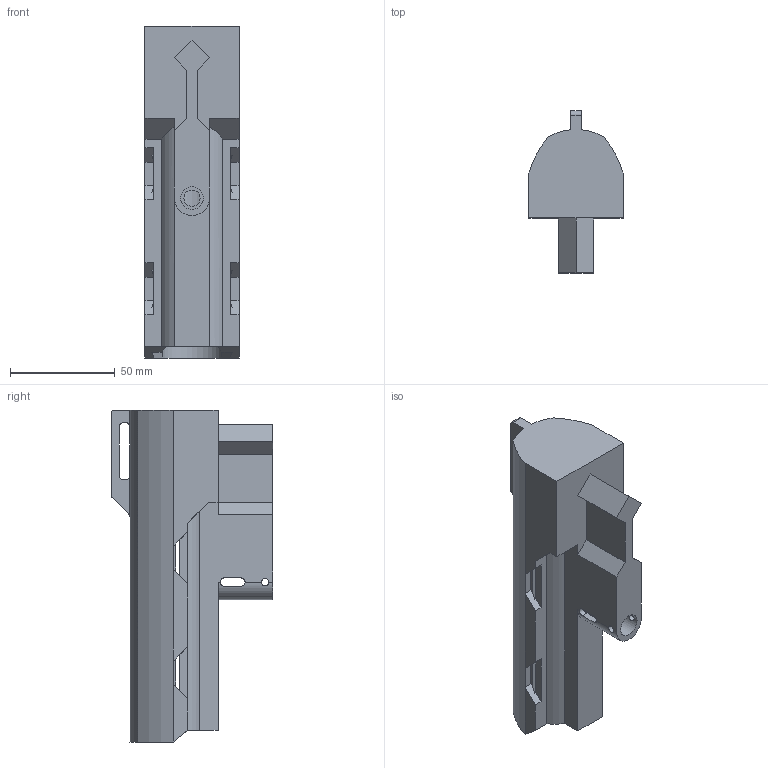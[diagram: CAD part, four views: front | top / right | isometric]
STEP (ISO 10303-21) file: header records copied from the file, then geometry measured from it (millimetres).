
FILE_DESCRIPTION( ( '' ), ' ' );
FILE_NAME( '/vol/tmp/translate-15671776463686586106/5dc6e2d694333712756285f8.step', '2019-11-09T16:01:26', ( '' ), ( '' ), ' ', ' ', ' ' );
FILE_SCHEMA( ( 'AUTOMOTIVE_DESIGN { 1 0 10303 214 1 1 1 1 }' ) );
Length unit declared in the file: metre
Products named in the file (1): Part 1
Bounding box: 45 x 77.46 x 158.75 mm (x, y, z)
Volume: 106559.2 mm3; surface area: 52607 mm2
Topology: 1 solids, 1 shells, 97 faces, 309 edges, 201 vertices
Faces by surface type: plane 72, cylinder 22, cone 1, bspline 1, torus 1
Full cylindrical faces by diameter (mm): 3.5 x2, 7.75 x1, 11 x1
Entity records: 4528 total; most frequent: CARTESIAN_POINT 1019, ORIENTED_EDGE 604, DIRECTION 519, EDGE_CURVE 302, LINE 239, VECTOR 239, VERTEX_POINT 198, AXIS2_PLACEMENT_3D 140
